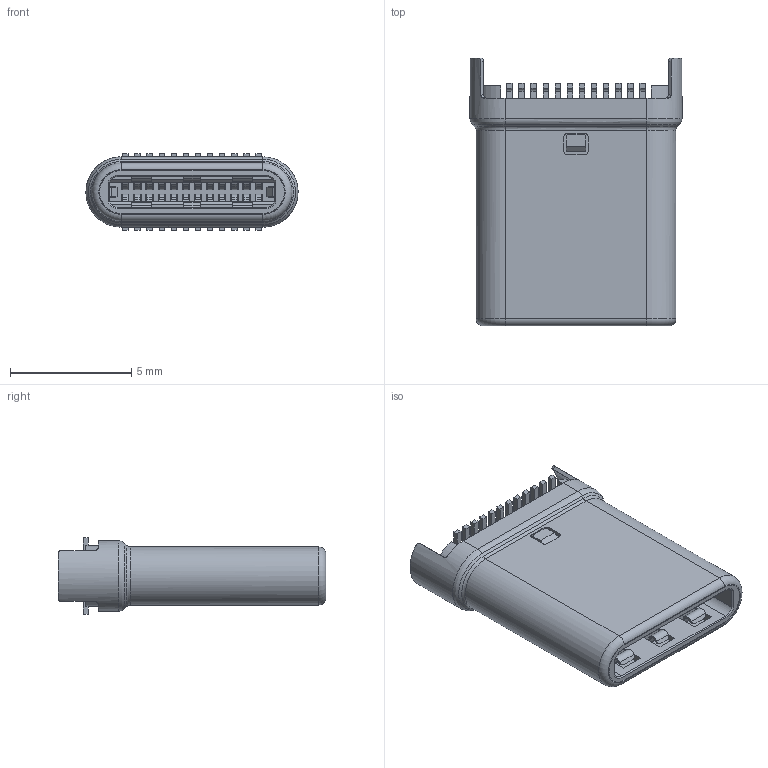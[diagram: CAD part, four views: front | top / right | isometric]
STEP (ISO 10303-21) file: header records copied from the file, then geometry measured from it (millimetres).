
FILE_DESCRIPTION (( 'STEP AP214' ), '1' );
FILE_NAME ('9.75.STEP', '2022-03-30T10:45:50', ( '' ), ( '' ), 'SwSTEP 2.0', 'SolidWorks 2016', '' );
FILE_SCHEMA (( 'AUTOMOTIVE_DESIGN' ));
Length unit declared in the file: millimetre
Products named in the file (8): 9.75; 粟え TYPE C 9.75; ﾁ羮2^9.75; 杶赽9.75; 9.75 傷赽; LATCH 19.73; TYPE C 9.75 MD; 俋褲9.75-1
Assembly tree (31 placements, depth 2):
  9.75
    俋褲9.75-1
    杶赽9.75
    TYPE C 9.75 MD  x2
    LATCH 19.73
    9.75 傷赽  x24
    粟え TYPE C 9.75  x2
  ﾁ羮2^9.75
Bounding box: 8.75 x 11.05 x 3.15 mm (x, y, z)
Volume: 127 mm3; surface area: 1246.7 mm2
Topology: 33 solids, 33 shells, 2303 faces, 6739 edges, 4417 vertices
Faces by surface type: plane 1535, cylinder 729, bspline 20, torus 15, cone 4
Entity records: 36741 total; most frequent: CARTESIAN_POINT 8467, ORIENTED_EDGE 6156, DIRECTION 5509, EDGE_CURVE 3078, VECTOR 2463, LINE 2463, VERTEX_POINT 1985, AXIS2_PLACEMENT_3D 1523
